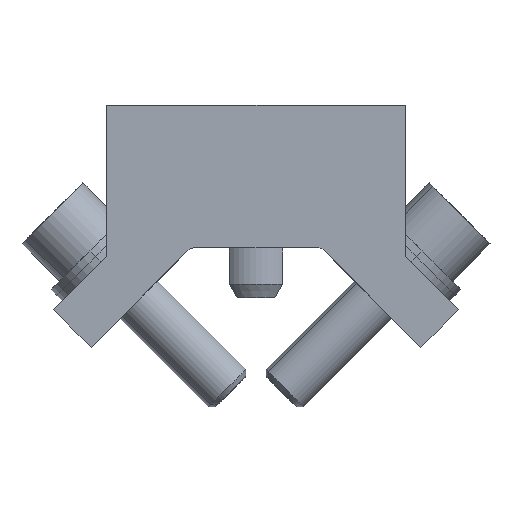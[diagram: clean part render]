
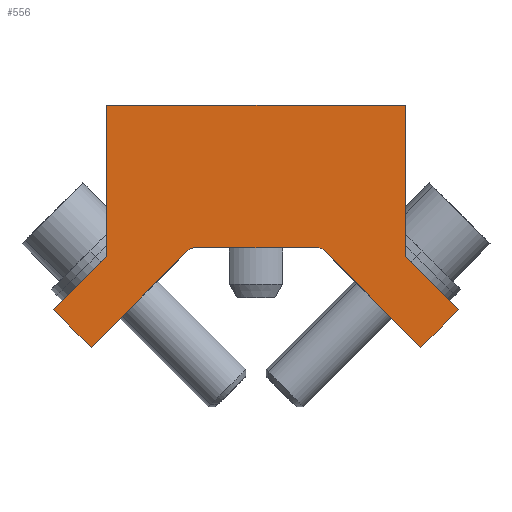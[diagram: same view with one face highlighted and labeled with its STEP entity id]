
A CAD part, left-side view. The second image highlights one B-rep face of the part: STEP entity #556.
In plain terms, the highlighted planar face has unit normal (-1, 0, 0).
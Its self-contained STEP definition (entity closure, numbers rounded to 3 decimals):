
#456=AXIS2_PLACEMENT_3D('Circle Axis2P3D',#454,#455,$) ;
#476=AXIS2_PLACEMENT_3D('Plane Axis2P3D',#473,#474,#475) ;
#136=CARTESIAN_POINT('Vertex',(-48.5,-9.234,25.5)) ;
#139=CARTESIAN_POINT('Line Origine',(-48.5,0.,25.5)) ;
#143=CARTESIAN_POINT('Vertex',(-48.5,9.234,25.5)) ;
#451=CARTESIAN_POINT('Vertex',(-48.5,-10.295,25.061)) ;
#454=CARTESIAN_POINT('Axis2P3D Location',(-48.5,-9.234,24.)) ;
#473=CARTESIAN_POINT('Axis2P3D Location',(-48.5,0.,0.)) ;
#479=CARTESIAN_POINT('Control Point',(-48.5,-24.855,10.5)) ;
#480=CARTESIAN_POINT('Control Point',(-48.5,-10.295,25.061)) ;
#481=CARTESIAN_POINT('Vertex',(-48.5,-24.855,10.5)) ;
#485=CARTESIAN_POINT('Control Point',(-48.5,-30.512,16.157)) ;
#486=CARTESIAN_POINT('Control Point',(-48.5,-24.855,10.5)) ;
#487=CARTESIAN_POINT('Vertex',(-48.5,-30.512,16.157)) ;
#491=CARTESIAN_POINT('Control Point',(-48.5,-22.5,24.169)) ;
#492=CARTESIAN_POINT('Control Point',(-48.5,-30.512,16.157)) ;
#493=CARTESIAN_POINT('Vertex',(-48.5,-22.5,24.169)) ;
#496=CARTESIAN_POINT('Line Origine',(-48.5,-22.5,28.75)) ;
#500=CARTESIAN_POINT('Vertex',(-48.5,-22.5,47.)) ;
#503=CARTESIAN_POINT('Line Origine',(-48.5,0.,47.)) ;
#507=CARTESIAN_POINT('Vertex',(-48.5,22.5,47.)) ;
#510=CARTESIAN_POINT('Line Origine',(-48.5,22.5,28.75)) ;
#514=CARTESIAN_POINT('Vertex',(-48.5,22.5,24.169)) ;
#518=CARTESIAN_POINT('Control Point',(-48.5,30.512,16.157)) ;
#519=CARTESIAN_POINT('Control Point',(-48.5,22.5,24.169)) ;
#520=CARTESIAN_POINT('Vertex',(-48.5,30.512,16.157)) ;
#524=CARTESIAN_POINT('Control Point',(-48.5,24.855,10.5)) ;
#525=CARTESIAN_POINT('Control Point',(-48.5,30.512,16.157)) ;
#526=CARTESIAN_POINT('Vertex',(-48.5,24.855,10.5)) ;
#530=CARTESIAN_POINT('Control Point',(-48.5,10.295,25.061)) ;
#531=CARTESIAN_POINT('Control Point',(-48.5,24.855,10.5)) ;
#532=CARTESIAN_POINT('Vertex',(-48.5,10.295,25.061)) ;
#536=CARTESIAN_POINT('Control Point',(-48.5,10.295,25.061)) ;
#537=CARTESIAN_POINT('Control Point',(-48.5,10.086,25.269)) ;
#538=CARTESIAN_POINT('Control Point',(-48.5,9.823,25.423)) ;
#539=CARTESIAN_POINT('Control Point',(-48.5,9.529,25.5)) ;
#540=CARTESIAN_POINT('Control Point',(-48.5,9.234,25.5)) ;
#140=DIRECTION('Vector Direction',(0.,1.,0.)) ;
#455=DIRECTION('Axis2P3D Direction',(-1.,0.,0.)) ;
#474=DIRECTION('Axis2P3D Direction',(1.,0.,0.)) ;
#475=DIRECTION('Axis2P3D XDirection',(0.,1.,0.)) ;
#497=DIRECTION('Vector Direction',(0.,0.,1.)) ;
#504=DIRECTION('Vector Direction',(0.,1.,0.)) ;
#511=DIRECTION('Vector Direction',(0.,0.,1.)) ;
#141=VECTOR('Line Direction',#140,1.) ;
#498=VECTOR('Line Direction',#497,1.) ;
#505=VECTOR('Line Direction',#504,1.) ;
#512=VECTOR('Line Direction',#511,1.) ;
#543=ORIENTED_EDGE('',*,*,#145,.F.) ;
#544=ORIENTED_EDGE('',*,*,#458,.T.) ;
#545=ORIENTED_EDGE('',*,*,#483,.F.) ;
#546=ORIENTED_EDGE('',*,*,#489,.F.) ;
#547=ORIENTED_EDGE('',*,*,#495,.F.) ;
#548=ORIENTED_EDGE('',*,*,#502,.T.) ;
#549=ORIENTED_EDGE('',*,*,#509,.T.) ;
#550=ORIENTED_EDGE('',*,*,#516,.F.) ;
#551=ORIENTED_EDGE('',*,*,#522,.F.) ;
#552=ORIENTED_EDGE('',*,*,#528,.F.) ;
#553=ORIENTED_EDGE('',*,*,#534,.F.) ;
#554=ORIENTED_EDGE('',*,*,#541,.T.) ;
#556=ADVANCED_FACE('PartBody',(#555),#477,.F.) ;
#478=B_SPLINE_CURVE_WITH_KNOTS('',1,(#479,#480),.UNSPECIFIED.,.F.,.U.,(2,2),(-10.607,9.985),.UNSPECIFIED.) ;
#484=B_SPLINE_CURVE_WITH_KNOTS('',1,(#485,#486),.UNSPECIFIED.,.F.,.U.,(2,2),(-4.,4.),.UNSPECIFIED.) ;
#490=B_SPLINE_CURVE_WITH_KNOTS('',1,(#491,#492),.UNSPECIFIED.,.F.,.U.,(2,2),(-5.665,5.665),.UNSPECIFIED.) ;
#517=B_SPLINE_CURVE_WITH_KNOTS('',1,(#518,#519),.UNSPECIFIED.,.F.,.U.,(2,2),(-5.665,5.665),.UNSPECIFIED.) ;
#523=B_SPLINE_CURVE_WITH_KNOTS('',1,(#524,#525),.UNSPECIFIED.,.F.,.U.,(2,2),(-4.,4.),.UNSPECIFIED.) ;
#529=B_SPLINE_CURVE_WITH_KNOTS('',1,(#530,#531),.UNSPECIFIED.,.F.,.U.,(2,2),(-9.985,10.607),.UNSPECIFIED.) ;
#535=B_SPLINE_CURVE_WITH_KNOTS('',4,(#536,#537,#538,#539,#540),.UNSPECIFIED.,.F.,.U.,(5,5),(1.178,2.356),.UNSPECIFIED.) ;
#457=CIRCLE('generated circle',#456,1.5) ;
#145=EDGE_CURVE('',#137,#144,#142,.T.) ;
#458=EDGE_CURVE('',#137,#452,#457,.F.) ;
#483=EDGE_CURVE('',#482,#452,#478,.T.) ;
#489=EDGE_CURVE('',#488,#482,#484,.T.) ;
#495=EDGE_CURVE('',#494,#488,#490,.T.) ;
#502=EDGE_CURVE('',#494,#501,#499,.T.) ;
#509=EDGE_CURVE('',#501,#508,#506,.T.) ;
#516=EDGE_CURVE('',#515,#508,#513,.T.) ;
#522=EDGE_CURVE('',#521,#515,#517,.T.) ;
#528=EDGE_CURVE('',#527,#521,#523,.T.) ;
#534=EDGE_CURVE('',#533,#527,#529,.T.) ;
#541=EDGE_CURVE('',#533,#144,#535,.T.) ;
#542=EDGE_LOOP('',(#543,#544,#545,#546,#547,#548,#549,#550,#551,#552,#553,#554)) ;
#555=FACE_OUTER_BOUND('',#542,.T.) ;
#142=LINE('Line',#139,#141) ;
#499=LINE('Line',#496,#498) ;
#506=LINE('Line',#503,#505) ;
#513=LINE('Line',#510,#512) ;
#477=PLANE('',#476) ;
#137=VERTEX_POINT('',#136) ;
#144=VERTEX_POINT('',#143) ;
#452=VERTEX_POINT('',#451) ;
#482=VERTEX_POINT('',#481) ;
#488=VERTEX_POINT('',#487) ;
#494=VERTEX_POINT('',#493) ;
#501=VERTEX_POINT('',#500) ;
#508=VERTEX_POINT('',#507) ;
#515=VERTEX_POINT('',#514) ;
#521=VERTEX_POINT('',#520) ;
#527=VERTEX_POINT('',#526) ;
#533=VERTEX_POINT('',#532) ;
